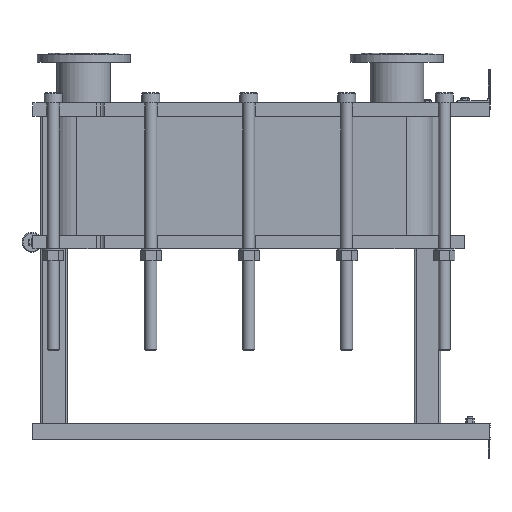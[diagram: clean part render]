
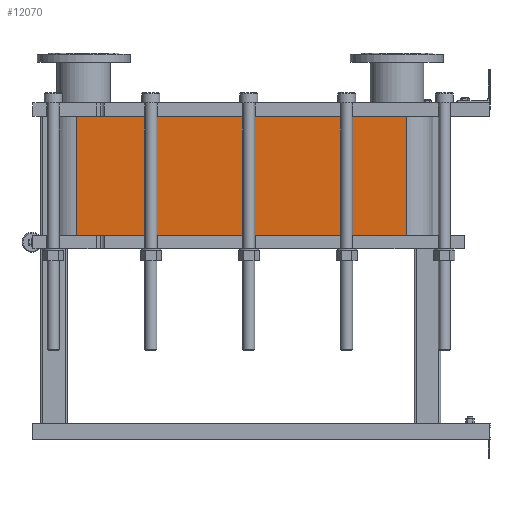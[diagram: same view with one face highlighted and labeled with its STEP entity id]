
A CAD part, left-side view. The second image highlights one B-rep face of the part: STEP entity #12070.
In plain terms, the highlighted planar face has unit normal (-1, 0, 0).
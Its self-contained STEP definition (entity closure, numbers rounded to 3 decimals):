
#1064=LINE('',#21140,#2164);
#1065=LINE('',#21144,#2165);
#1066=LINE('',#21146,#2166);
#1067=LINE('',#21147,#2167);
#2164=VECTOR('',#15790,10.);
#2165=VECTOR('',#15795,10.);
#2166=VECTOR('',#15796,10.);
#2167=VECTOR('',#15797,10.);
#3304=FACE_OUTER_BOUND('',#4091,.T.);
#4091=EDGE_LOOP('',(#9793,#9794,#9795,#9796));
#5677=VERTEX_POINT('',#21137);
#5678=VERTEX_POINT('',#21139);
#5679=VERTEX_POINT('',#21143);
#5680=VERTEX_POINT('',#21145);
#7118=EDGE_CURVE('',#5678,#5677,#1064,.T.);
#7120=EDGE_CURVE('',#5677,#5679,#1065,.T.);
#7121=EDGE_CURVE('',#5680,#5679,#1066,.T.);
#7122=EDGE_CURVE('',#5680,#5678,#1067,.T.);
#9793=ORIENTED_EDGE('',*,*,#7120,.T.);
#9794=ORIENTED_EDGE('',*,*,#7121,.F.);
#9795=ORIENTED_EDGE('',*,*,#7122,.T.);
#9796=ORIENTED_EDGE('',*,*,#7118,.T.);
#11441=PLANE('',#13191);
#12070=ADVANCED_FACE('',(#3304),#11441,.T.);
#13191=AXIS2_PLACEMENT_3D('',#21142,#15793,#15794);
#15790=DIRECTION('',(0.,0.,-1.));
#15793=DIRECTION('center_axis',(-1.,0.,0.));
#15794=DIRECTION('ref_axis',(0.,1.,0.));
#15795=DIRECTION('',(0.,-1.,0.));
#15796=DIRECTION('',(0.,0.,-1.));
#15797=DIRECTION('',(0.,1.,0.));
#21137=CARTESIAN_POINT('',(-248.152,1243.818,-358.8));
#21139=CARTESIAN_POINT('',(-248.152,1243.818,0.));
#21140=CARTESIAN_POINT('',(-248.152,1243.818,0.));
#21142=CARTESIAN_POINT('Origin',(-248.152,251.818,0.));
#21143=CARTESIAN_POINT('',(-248.152,251.818,-358.8));
#21144=CARTESIAN_POINT('',(-248.152,499.818,-358.8));
#21145=CARTESIAN_POINT('',(-248.152,251.818,0.));
#21146=CARTESIAN_POINT('',(-248.152,251.818,0.));
#21147=CARTESIAN_POINT('',(-248.152,251.818,0.));
